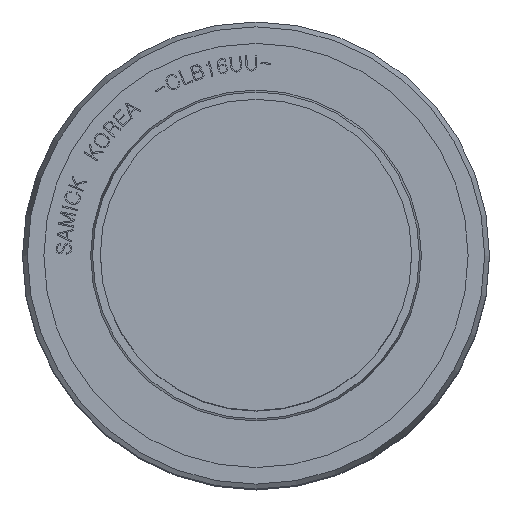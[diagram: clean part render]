
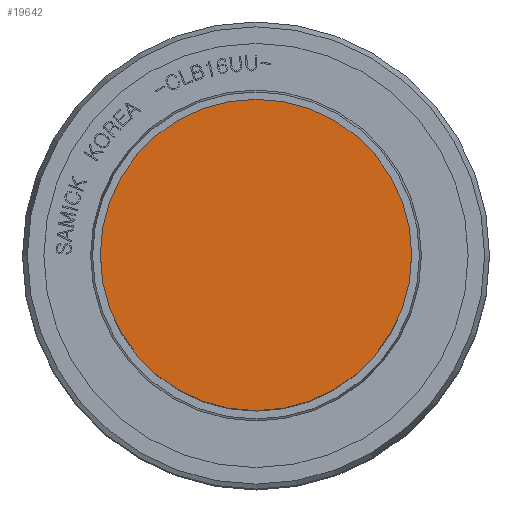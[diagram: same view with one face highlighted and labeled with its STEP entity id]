
A CAD part, top view. The second image highlights one B-rep face of the part: STEP entity #19642.
In plain terms, the highlighted planar face has unit normal (0, 0, 1).
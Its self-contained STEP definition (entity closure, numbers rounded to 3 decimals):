
#761=PLANE('',#20795);
#2536=FACE_OUTER_BOUND('',#3619,.T.);
#3619=EDGE_LOOP('',(#12808));
#7516=CIRCLE('',#20789,8.);
#7814=VERTEX_POINT('',#24413);
#9802=EDGE_CURVE('',#7814,#7814,#7516,.T.);
#12808=ORIENTED_EDGE('',*,*,#9802,.T.);
#19642=ADVANCED_FACE('',(#2536),#761,.T.);
#20789=AXIS2_PLACEMENT_3D('',#24414,#21573,#21574);
#20795=AXIS2_PLACEMENT_3D('',#24425,#21587,#21588);
#21573=DIRECTION('center_axis',(0.,0.,1.));
#21574=DIRECTION('ref_axis',(-1.,0.,0.));
#21587=DIRECTION('center_axis',(0.,0.,1.));
#21588=DIRECTION('ref_axis',(1.,0.,0.));
#24413=CARTESIAN_POINT('',(8.,0.,30.));
#24414=CARTESIAN_POINT('Origin',(0.,0.,
30.));
#24425=CARTESIAN_POINT('Origin',(0.,0.,
30.));
